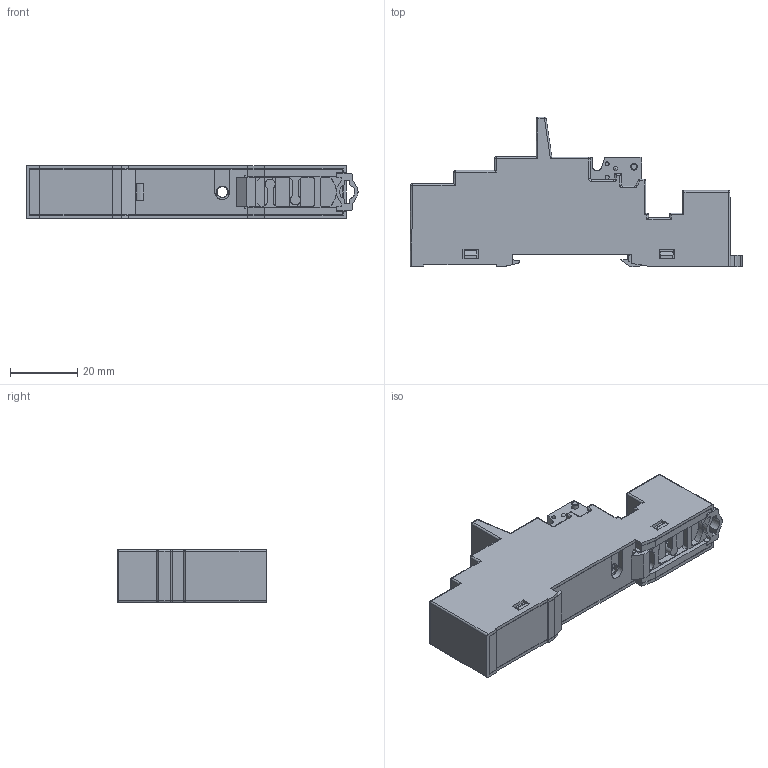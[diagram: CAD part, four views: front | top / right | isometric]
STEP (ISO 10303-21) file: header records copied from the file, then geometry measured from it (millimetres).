
FILE_DESCRIPTION(('STEP AP214'),'2;1');
FILE_NAME('9752.stp','2010-09-28T16:53:50',(''),(''),'2007.1.106','THINKDESIGN','');
FILE_SCHEMA(('AUTOMOTIVE_DESIGN'));
Products named in the file (1): None
Bounding box: 99 x 44.7 x 15.8 mm (x, y, z)
Surface area: 23731.4 mm2 (no closed solid volume)
Topology: 0 solids, 0 shells, 878 faces, 4851 edges, 4803 vertices
Faces by surface type: plane 634, cylinder 197, bspline 47
Full cylindrical faces by diameter (mm): 1.2 x4, 2 x2, 3 x2
Entity records: 51864 total; most frequent: CARTESIAN_POINT 15985, DIRECTION 6354, COMPOSITE_CURVE_SEGMENT 4820, TRIMMED_CURVE 4337, VECTOR 4006, LINE 4006, AXIS2_PLACEMENT_3D 1174, OUTER_BOUNDARY_CURVE 878
